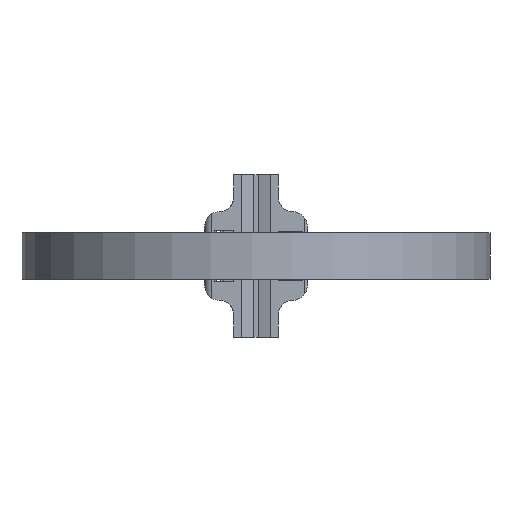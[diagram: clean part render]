
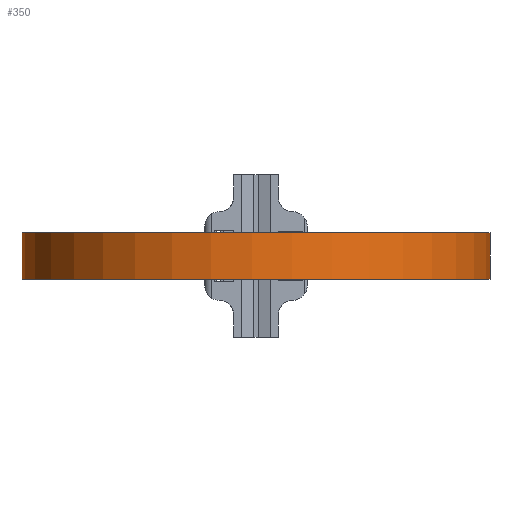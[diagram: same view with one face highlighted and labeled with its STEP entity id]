
A CAD part, front view. The second image highlights one B-rep face of the part: STEP entity #350.
In plain terms, the highlighted cylindrical face has radius 50.3 mm (diameter 100.6 mm), a partial arc.
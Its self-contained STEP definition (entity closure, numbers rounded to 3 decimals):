
#350 = ADVANCED_FACE( '', ( #733 ), #734, .T. );
#733 = FACE_OUTER_BOUND( '', #1140, .T. );
#734 = CYLINDRICAL_SURFACE( '', #1141, 50.3 );
#1140 = EDGE_LOOP( '', ( #2164, #2165, #2166, #2167 ) );
#1141 = AXIS2_PLACEMENT_3D( '', #2168, #2169, #2170 );
#2164 = ORIENTED_EDGE( '', *, *, #2892, .T. );
#2165 = ORIENTED_EDGE( '', *, *, #2893, .F. );
#2166 = ORIENTED_EDGE( '', *, *, #2855, .F. );
#2167 = ORIENTED_EDGE( '', *, *, #2654, .T. );
#2168 = CARTESIAN_POINT( '', ( 0., -50.15, 5. ) );
#2169 = DIRECTION( '', ( 0., 0., 1. ) );
#2170 = DIRECTION( '', ( -1., 0., 0. ) );
#2654 = EDGE_CURVE( '', #3284, #3281, #3285, .T. );
#2855 = EDGE_CURVE( '', #3284, #3565, #3566, .T. );
#2892 = EDGE_CURVE( '', #3281, #3609, #3610, .T. );
#2893 = EDGE_CURVE( '', #3565, #3609, #3611, .T. );
#3281 = VERTEX_POINT( '', #4130 );
#3284 = VERTEX_POINT( '', #4133 );
#3285 = LINE( '', #4134, #4135 );
#3565 = VERTEX_POINT( '', #4578 );
#3566 = CIRCLE( '', #4579, 50.3 );
#3609 = VERTEX_POINT( '', #4687 );
#3610 = CIRCLE( '', #4688, 50.3 );
#3611 = LINE( '', #4689, #4690 );
#4130 = CARTESIAN_POINT( '', ( -8.177, -0.519, -5. ) );
#4133 = CARTESIAN_POINT( '', ( -8.177, -0.519, 5. ) );
#4134 = CARTESIAN_POINT( '', ( -8.177, -0.519, 5. ) );
#4135 = VECTOR( '', #5005, 1000. );
#4578 = CARTESIAN_POINT( '', ( 10.04, -0.862, 5. ) );
#4579 = AXIS2_PLACEMENT_3D( '', #5217, #5218, #5219 );
#4687 = CARTESIAN_POINT( '', ( 10.04, -0.862, -5. ) );
#4688 = AXIS2_PLACEMENT_3D( '', #5254, #5255, #5256 );
#4689 = CARTESIAN_POINT( '', ( 10.04, -0.862, 5. ) );
#4690 = VECTOR( '', #5257, 1000. );
#5005 = DIRECTION( '', ( 0., 0., -1. ) );
#5217 = CARTESIAN_POINT( '', ( 0., -50.15, 5. ) );
#5218 = DIRECTION( '', ( 0., 0., 1. ) );
#5219 = DIRECTION( '', ( 1., 0., 0. ) );
#5254 = CARTESIAN_POINT( '', ( 0., -50.15, -5. ) );
#5255 = DIRECTION( '', ( 0., 0., 1. ) );
#5256 = DIRECTION( '', ( 1., 0., 0. ) );
#5257 = DIRECTION( '', ( 0., 0., -1. ) );
